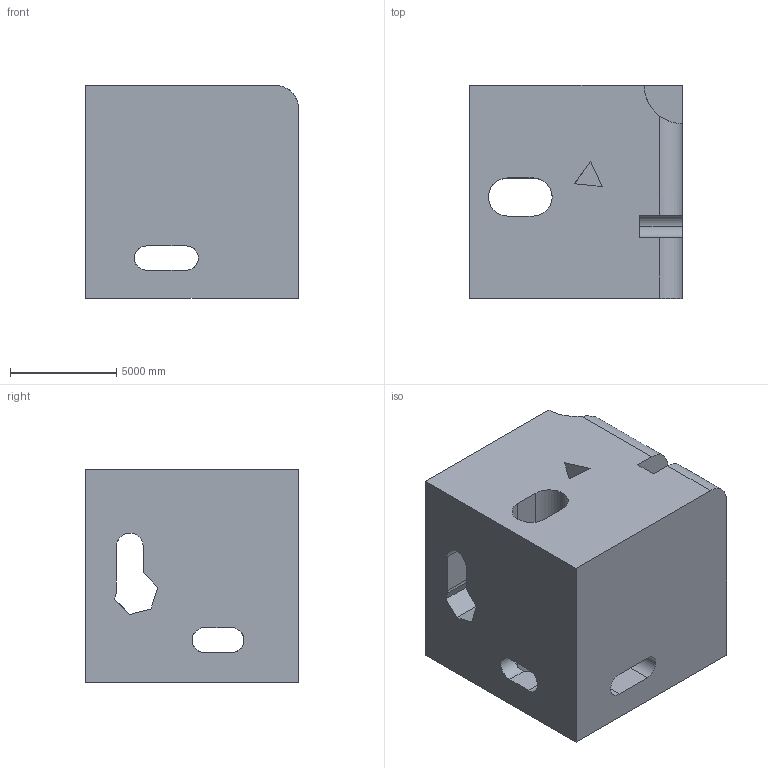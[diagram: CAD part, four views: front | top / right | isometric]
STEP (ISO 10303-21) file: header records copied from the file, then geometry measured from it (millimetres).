
FILE_DESCRIPTION (( 'STEP AP203' ), '1' );
FILE_NAME ('1868.STEP', '2022-08-26T10:47:22', ( 'user' ), ( '' ), 'SwSTEP 2.0', 'SolidWorks 2021', '' );
FILE_SCHEMA (( 'CONFIG_CONTROL_DESIGN' ));
Length unit declared in the file: centimetre
Products named in the file (1): 1868
Bounding box: 10000 x 10000 x 10000 mm (x, y, z)
Volume: 822863832099.5 mm3; surface area: 869050712.8 mm2
Topology: 1 solids, 1 shells, 49 faces, 156 edges, 104 vertices
Faces by surface type: plane 30, cylinder 19
Entity records: 2492 total; most frequent: CARTESIAN_POINT 1004, ORIENTED_EDGE 312, DIRECTION 277, EDGE_CURVE 156, VECTOR 107, LINE 107, VERTEX_POINT 104, AXIS2_PLACEMENT_3D 85
